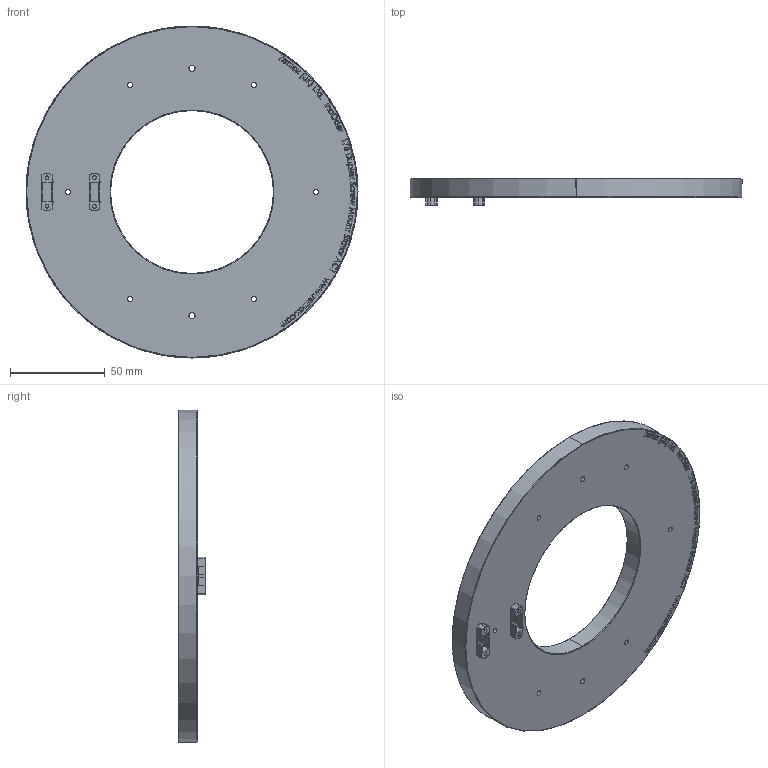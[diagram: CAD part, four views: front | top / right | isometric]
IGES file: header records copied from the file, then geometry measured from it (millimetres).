
Start section: SolidWorks IGES file using analytic representation for surfaces
Global section: file name: C:\Zettlex Data\Mechanical Drawings\1011\175 Duplex Screw Mount Stator AC1 Rev 1-2.IGS; native system: SolidWorks 2015; preprocessor: SolidWorks 2015; author: Nigel; date: 150914.153227; units: millimetre
Bounding box: 175 x 13.8 x 175 mm (x, y, z)
Surface area: 46135.9 mm2 (no closed solid volume)
Topology: 0 solids, 0 shells, 902 faces, 10468 edges, 10468 vertices
Faces by surface type: bspline 849, revolution 53
